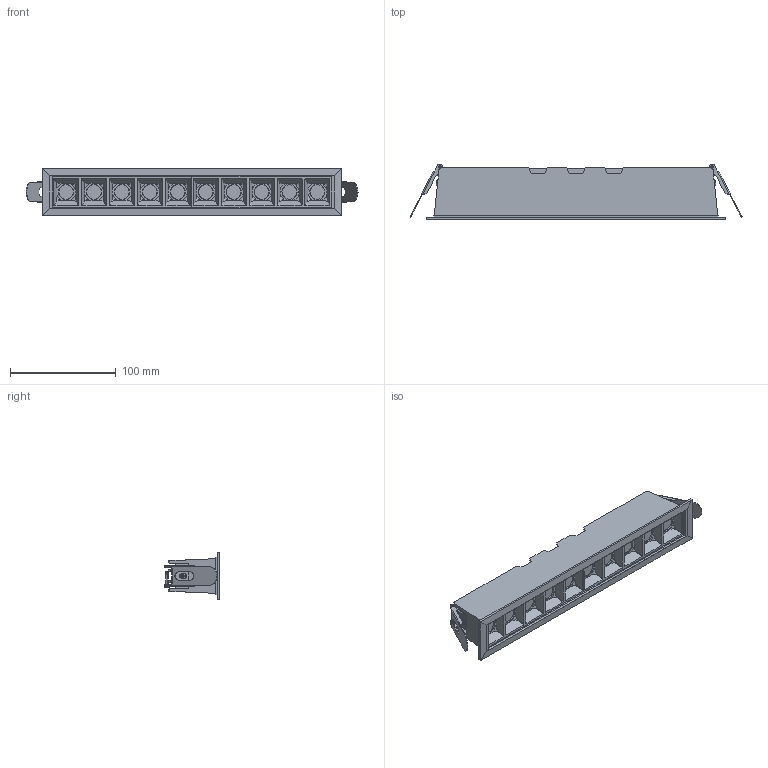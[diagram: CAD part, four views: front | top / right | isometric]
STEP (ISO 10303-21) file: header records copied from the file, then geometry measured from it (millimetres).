
FILE_DESCRIPTION (( 'STEP AP203' ), '1' );
FILE_NAME ('XR178__.028.____.STEP', '2025-05-30T12:07:49', ( '' ), ( '' ), 'SwSTEP 2.0', 'SolidWorks 2024', '' );
FILE_SCHEMA (( 'CONFIG_CONTROL_DESIGN' ));
Length unit declared in the file: millimetre
Products named in the file (10): countersunk flat head cross recess screw_iso_ISO 7046-1 - M3 x 8 - Z - 8N; 120 deg ctsk semi-tubular rivets gb_GB_RIVETS_COUNTERSUNK_TYPE84 2.5X15; 3300.0423000.00 (corpo pressofuso ALL H 49mm)_3307.0423010.00; 4902.0011000.00 (elemento di chiusura frontale PC con innesto lente)_4902.0011005.00; 5200.0029000.00 (clip di fissaggio a molla ACC 58x18mm sp 0,8)_5200.0029002.00; 5200.0029000.00 (clip di fissaggio a molla ACC 58x18mm sp 0,8)_5200.0029001.00; XR178__.028.____; 4504.0030000.00 (bloccacavo rettangolare PC 8,9x17mm H 5,80mm con foro M3)_4504.0030000.00; pan head cross recess screw_iso_ISO 7045 - M3 x 5 - Z - 5N; 3100.0094000.00 (modulo lineare fascio largo PMMA H 1,4mm)_3101.0094005.00
Assembly tree (15 placements, depth 2):
  XR178__.028.____
    3300.0423000.00 (corpo pressofuso ALL H 49mm)_3307.0423010.00
    4902.0011000.00 (elemento di chiusura frontale PC con innesto lente)_4902.0011005.00  x2
    3100.0094000.00 (modulo lineare fascio largo PMMA H 1,4mm)_3101.0094005.00  x2
    countersunk flat head cross recess screw_iso_ISO 7046-1 - M3 x 8 - Z - 8N
    4504.0030000.00 (bloccacavo rettangolare PC 8,9x17mm H 5,80mm con foro M3)_4504.0030000.00
    5200.0029000.00 (clip di fissaggio a molla ACC 58x18mm sp 0,8)_5200.0029002.00  x2
    5200.0029000.00 (clip di fissaggio a molla ACC 58x18mm sp 0,8)_5200.0029001.00  x2
    120 deg ctsk semi-tubular rivets gb_GB_RIVETS_COUNTERSUNK_TYPE84 2.5X15  x2
    pan head cross recess screw_iso_ISO 7045 - M3 x 5 - Z - 5N  x2
Bounding box: 313.99 x 52.65 x 45 mm (x, y, z)
Volume: 143351.7 mm3; surface area: 132098.5 mm2
Topology: 17 solids, 17 shells, 1652 faces, 4499 edges, 2907 vertices
Faces by surface type: plane 890, cylinder 455, cone 147, bspline 142, torus 14, sphere 4
Entity records: 45591 total; most frequent: CARTESIAN_POINT 19509, ORIENTED_EDGE 5402, DIRECTION 4968, EDGE_CURVE 2701, VERTEX_POINT 1753, LINE 1664, VECTOR 1664, AXIS2_PLACEMENT_3D 1652
